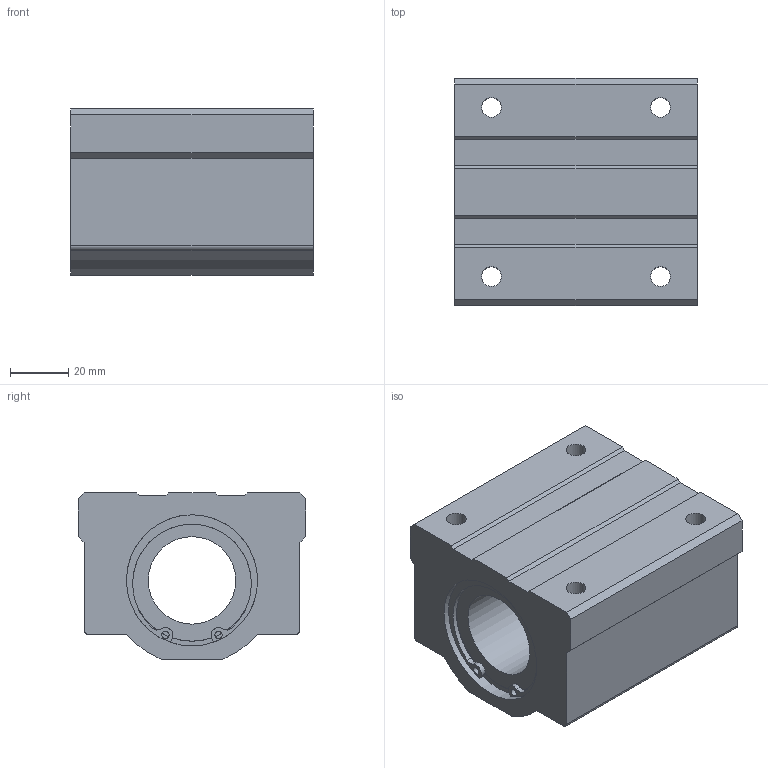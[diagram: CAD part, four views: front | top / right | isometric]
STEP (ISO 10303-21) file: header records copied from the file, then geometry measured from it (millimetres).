
FILE_DESCRIPTION((''),'2;1');
FILE_NAME('D:\製品 (図面)\カタログ用3D\メンテナンスフリー関連\STEP形式\LH-MF\LH30MF.stp','2010-06-01T16:09:57',('Tsuchiya'),(''),'Autodesk Inventor 10','Autodesk Inventor 10','');
FILE_SCHEMA(('AUTOMOTIVE_DESIGN { 1 0 10303 214 1 1 1 1 }'));
Length unit declared in the file: millimetre
Products named in the file (1): LH30MF
Bounding box: 83 x 78 x 57 mm (x, y, z)
Volume: 253443.9 mm3; surface area: 41622 mm2
Topology: 1 solids, 3 shells, 81 faces, 215 edges, 138 vertices
Faces by surface type: plane 44, cylinder 20, bspline 17
Full cylindrical faces by diameter (mm): 2.5 x2, 30 x1, 41.7 x2, 43 x2, 45 x4
Entity records: 2552 total; most frequent: CARTESIAN_POINT 599, DIRECTION 414, ORIENTED_EDGE 372, EDGE_CURVE 186, AXIS2_PLACEMENT_3D 163, VERTEX_POINT 126, EDGE_LOOP 118, CIRCLE 98
